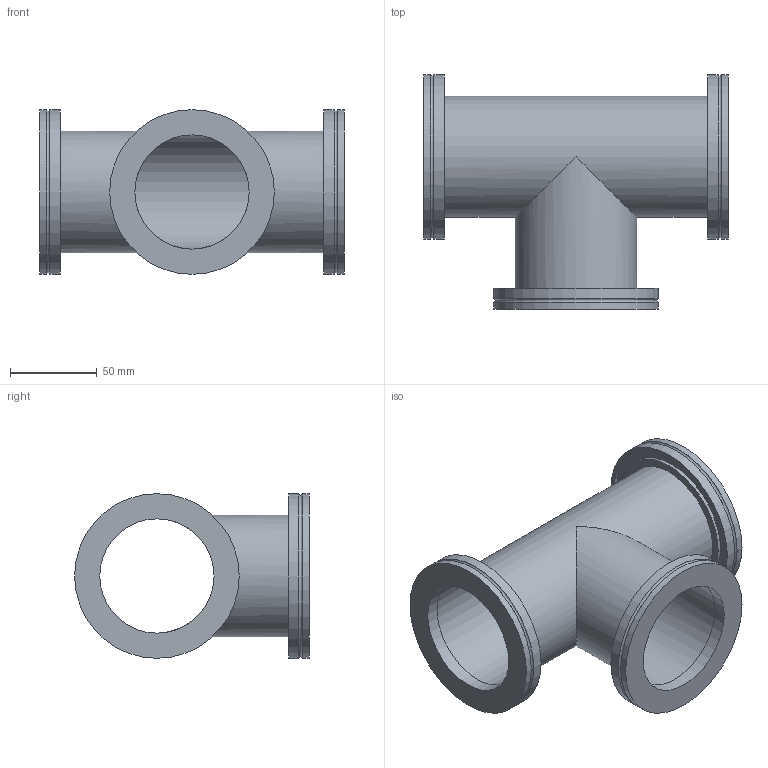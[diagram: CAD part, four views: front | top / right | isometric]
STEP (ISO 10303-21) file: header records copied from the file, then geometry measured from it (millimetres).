
FILE_DESCRIPTION( ( 'Unknown' ), '1' );
FILE_NAME( 'X:/Daten ( aktueller Bestand )/Projekte und Zeichnungen/Solid Edge/STP-Dateien/ISO-K Teile und Zubehör/6121.stp', 'Unknown', ( 'Unknown' ), ( 'Unknown' ), 'PSStep 14.0', 'Unknown', ' ' );
FILE_SCHEMA( ( 'AUTOMOTIVE_DESIGN { 1 0 10303 214 1 1 1 1 }' ) );
Length unit declared in the file: millimetre
Products named in the file (3): Assem1; 6511-1; 6121-1
Assembly tree (4 placements, depth 2):
  Assem1
    6511-1  x3
    6121-1
Bounding box: 176 x 135.5 x 95 mm (x, y, z)
Volume: 200026.2 mm3; surface area: 130564 mm2
Topology: 4 solids, 4 shells, 43 faces, 75 edges, 49 vertices
Faces by surface type: cylinder 22, plane 18, torus 3
Full cylindrical faces by diameter (mm): 66 x5, 70 x2, 71 x3, 80 x3, 90 x3, 95 x6
Entity records: 648 total; most frequent: DIRECTION 92, CARTESIAN_POINT 68, AXIS2_PLACEMENT_3D 46, ORIENTED_EDGE 44, EDGE_LOOP 40, FACE_OUTER_BOUND 30, EDGE_CURVE 22, VERTEX_POINT 22
